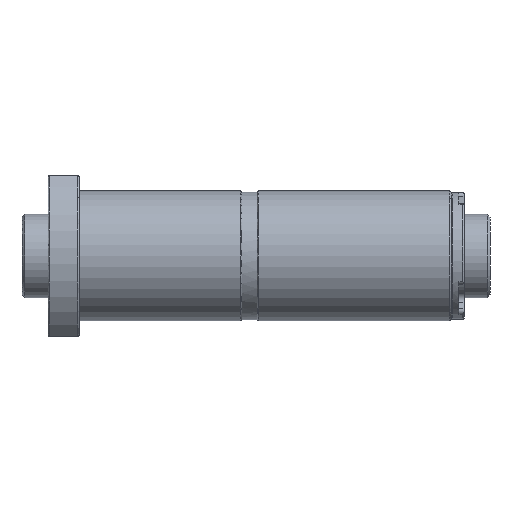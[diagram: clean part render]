
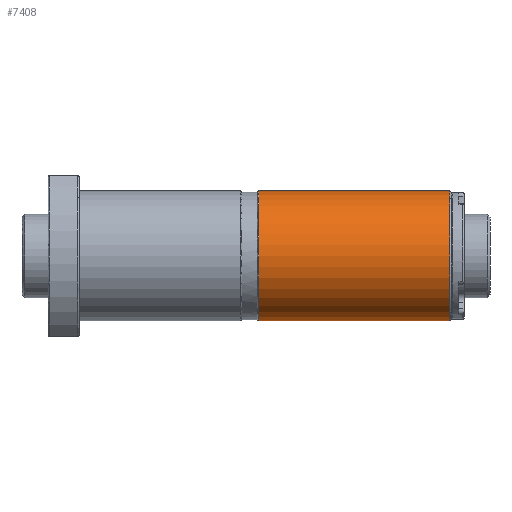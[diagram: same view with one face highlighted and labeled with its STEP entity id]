
A CAD part, front view. The second image highlights one B-rep face of the part: STEP entity #7408.
In plain terms, the highlighted cylindrical face has radius 25 mm (diameter 50 mm), a partial arc.
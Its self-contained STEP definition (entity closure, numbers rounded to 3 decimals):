
#45 = DIRECTION ( 'NONE',  ( -1., 0., 0. ) ) ;
#307 = DIRECTION ( 'NONE',  ( 1., 0., 0. ) ) ;
#1690 = CARTESIAN_POINT ( 'NONE',  ( 154.5, 0., 0. ) ) ;
#1714 = ORIENTED_EDGE ( 'NONE', *, *, #3028, .F. ) ;
#1979 = AXIS2_PLACEMENT_3D ( 'NONE', #4376, #10257, #5243 ) ;
#2105 = VERTEX_POINT ( 'NONE', #6476 ) ;
#2432 = EDGE_CURVE ( 'NONE', #2105, #8873, #9584, .T. ) ;
#2586 = ORIENTED_EDGE ( 'NONE', *, *, #2432, .T. ) ;
#2607 = EDGE_CURVE ( 'NONE', #4572, #6711, #9044, .T. ) ;
#3028 = EDGE_CURVE ( 'NONE', #2105, #6711, #5486, .T. ) ;
#3204 = CARTESIAN_POINT ( 'NONE',  ( 81., 0., -25. ) ) ;
#4100 = CYLINDRICAL_SURFACE ( 'NONE', #1979, 25. ) ;
#4376 = CARTESIAN_POINT ( 'NONE',  ( 155., 0., 0. ) ) ;
#4494 = CARTESIAN_POINT ( 'NONE',  ( 81., 0., 0. ) ) ;
#4572 = VERTEX_POINT ( 'NONE', #7192 ) ;
#4594 = LINE ( 'NONE', #5974, #7131 ) ;
#5243 = DIRECTION ( 'NONE',  ( 0., 0., 1. ) ) ;
#5486 = LINE ( 'NONE', #7842, #10093 ) ;
#5552 = FACE_OUTER_BOUND ( 'NONE', #9409, .T. ) ;
#5974 = CARTESIAN_POINT ( 'NONE',  ( 155., 0., 25. ) ) ;
#6476 = CARTESIAN_POINT ( 'NONE',  ( 154.5, 0., -25. ) ) ;
#6689 = ORIENTED_EDGE ( 'NONE', *, *, #2607, .T. ) ;
#6711 = VERTEX_POINT ( 'NONE', #3204 ) ;
#7131 = VECTOR ( 'NONE', #45, 1000. ) ;
#7192 = CARTESIAN_POINT ( 'NONE',  ( 81., 0., 25. ) ) ;
#7408 = ADVANCED_FACE ( 'NONE', ( #5552 ), #4100, .T. ) ;
#7742 = DIRECTION ( 'NONE',  ( 0., 0., 1. ) ) ;
#7842 = CARTESIAN_POINT ( 'NONE',  ( 155., 0., -25. ) ) ;
#7979 = AXIS2_PLACEMENT_3D ( 'NONE', #1690, #8446, #9287 ) ;
#8446 = DIRECTION ( 'NONE',  ( -1., 0., 0. ) ) ;
#8873 = VERTEX_POINT ( 'NONE', #9558 ) ;
#9044 = CIRCLE ( 'NONE', #9681, 25. ) ;
#9093 = ORIENTED_EDGE ( 'NONE', *, *, #10646, .T. ) ;
#9287 = DIRECTION ( 'NONE',  ( 0., 0., 1. ) ) ;
#9409 = EDGE_LOOP ( 'NONE', ( #1714, #2586, #9093, #6689 ) ) ;
#9558 = CARTESIAN_POINT ( 'NONE',  ( 154.5, 0., 25. ) ) ;
#9584 = CIRCLE ( 'NONE', #7979, 25. ) ;
#9681 = AXIS2_PLACEMENT_3D ( 'NONE', #4494, #307, #7742 ) ;
#10093 = VECTOR ( 'NONE', #10441, 1000. ) ;
#10257 = DIRECTION ( 'NONE',  ( -1., 0., 0. ) ) ;
#10441 = DIRECTION ( 'NONE',  ( -1., 0., 0. ) ) ;
#10646 = EDGE_CURVE ( 'NONE', #8873, #4572, #4594, .T. ) ;
